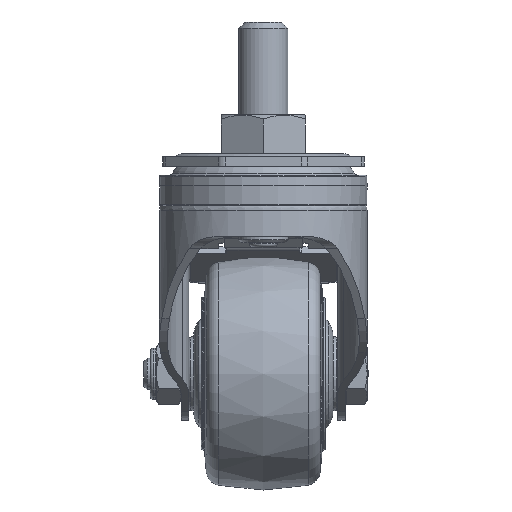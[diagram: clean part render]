
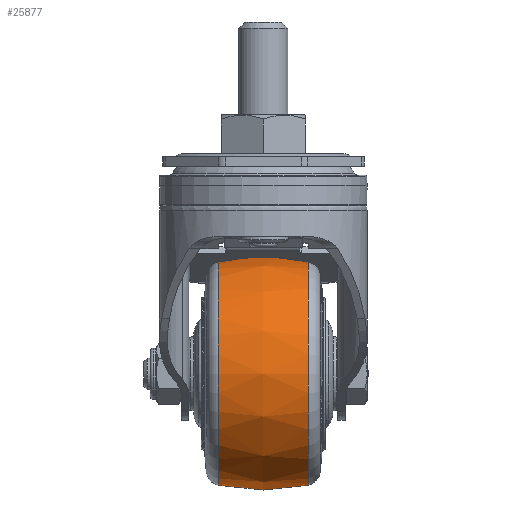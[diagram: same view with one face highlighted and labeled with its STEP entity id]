
A CAD part, left-side view. The second image highlights one B-rep face of the part: STEP entity #25877.
In plain terms, the highlighted free-form (B-spline) face has degree [2, 2] with [3, 9] control points.
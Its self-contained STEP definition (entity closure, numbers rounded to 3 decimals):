
#64=(
BOUNDED_SURFACE()
B_SPLINE_SURFACE(2,2,((#40515,#40516,#40517,#40518,#40519,#40520,#40521,
#40522,#40523),(#40524,#40525,#40526,#40527,#40528,#40529,#40530,#40531,
#40532),(#40533,#40534,#40535,#40536,#40537,#40538,#40539,#40540,#40541)),
 .UNSPECIFIED.,.F.,.T.,.F.)
B_SPLINE_SURFACE_WITH_KNOTS((3,3),(3,2,2,2,3),(-0.208,0.208),
(-3.142,-1.571,0.,1.571,3.142),
 .UNSPECIFIED.)
GEOMETRIC_REPRESENTATION_ITEM()
RATIONAL_B_SPLINE_SURFACE(((1.,0.707,1.,0.707,1.,
0.707,1.,0.707,1.),(0.978,0.692,
0.978,0.692,0.978,0.692,
0.978,0.692,0.978),(1.,0.707,
1.,0.707,1.,0.707,1.,0.707,1.)))
REPRESENTATION_ITEM('')
SURFACE()
);
#3492=FACE_OUTER_BOUND('',#5042,.T.);
#5042=EDGE_LOOP('',(#19548,#19549,#19550,#19551));
#10194=CIRCLE('',#27258,35.992);
#10213=CIRCLE('',#27286,35.992);
#10215=CIRCLE('',#27288,70.);
#11414=VERTEX_POINT('',#40465);
#11429=VERTEX_POINT('',#40512);
#14399=EDGE_CURVE('',#11414,#11414,#10194,.T.);
#14421=EDGE_CURVE('',#11429,#11429,#10213,.T.);
#14423=EDGE_CURVE('',#11414,#11429,#10215,.T.);
#19548=ORIENTED_EDGE('',*,*,#14399,.F.);
#19549=ORIENTED_EDGE('',*,*,#14423,.T.);
#19550=ORIENTED_EDGE('',*,*,#14421,.T.);
#19551=ORIENTED_EDGE('',*,*,#14423,.F.);
#25877=ADVANCED_FACE('',(#3492),#64,.F.);
#27258=AXIS2_PLACEMENT_3D('',#40467,#29475,#29476);
#27286=AXIS2_PLACEMENT_3D('',#40513,#29534,#29535);
#27288=AXIS2_PLACEMENT_3D('',#40542,#29538,#29539);
#29475=DIRECTION('center_axis',(0.,-1.,0.));
#29476=DIRECTION('ref_axis',(0.,0.,-1.));
#29534=DIRECTION('center_axis',(0.,-1.,0.));
#29535=DIRECTION('ref_axis',(0.,0.,-1.));
#29538=DIRECTION('center_axis',(-1.,0.,0.));
#29539=DIRECTION('ref_axis',(0.,0.,
1.));
#40465=CARTESIAN_POINT('',(40.,-14.451,-35.308));
#40467=CARTESIAN_POINT('Origin',(40.,-14.451,-71.3));
#40512=CARTESIAN_POINT('',(40.,14.451,-35.308));
#40513=CARTESIAN_POINT('Origin',(40.,14.451,-71.3));
#40515=CARTESIAN_POINT('Ctrl Pts',(40.,14.451,-35.308));
#40516=CARTESIAN_POINT('Ctrl Pts',(4.008,14.451,-35.308));
#40517=CARTESIAN_POINT('Ctrl Pts',(4.008,14.451,-71.3));
#40518=CARTESIAN_POINT('Ctrl Pts',(4.008,14.451,-107.292));
#40519=CARTESIAN_POINT('Ctrl Pts',(40.,14.451,-107.292));
#40520=CARTESIAN_POINT('Ctrl Pts',(75.992,14.451,-107.292));
#40521=CARTESIAN_POINT('Ctrl Pts',(75.992,14.451,-71.3));
#40522=CARTESIAN_POINT('Ctrl Pts',(75.992,14.451,-35.308));
#40523=CARTESIAN_POINT('Ctrl Pts',(40.,14.451,-35.308));
#40524=CARTESIAN_POINT('Ctrl Pts',(40.,0.,
-32.259));
#40525=CARTESIAN_POINT('Ctrl Pts',(0.959,0.,
-32.259));
#40526=CARTESIAN_POINT('Ctrl Pts',(0.959,0.,
-71.3));
#40527=CARTESIAN_POINT('Ctrl Pts',(0.959,0.,
-110.341));
#40528=CARTESIAN_POINT('Ctrl Pts',(40.,0.,
-110.341));
#40529=CARTESIAN_POINT('Ctrl Pts',(79.041,0.,
-110.341));
#40530=CARTESIAN_POINT('Ctrl Pts',(79.041,0.,
-71.3));
#40531=CARTESIAN_POINT('Ctrl Pts',(79.041,0.,
-32.259));
#40532=CARTESIAN_POINT('Ctrl Pts',(40.,0.,
-32.259));
#40533=CARTESIAN_POINT('Ctrl Pts',(40.,-14.451,-35.308));
#40534=CARTESIAN_POINT('Ctrl Pts',(4.008,-14.451,-35.308));
#40535=CARTESIAN_POINT('Ctrl Pts',(4.008,-14.451,-71.3));
#40536=CARTESIAN_POINT('Ctrl Pts',(4.008,-14.451,-107.292));
#40537=CARTESIAN_POINT('Ctrl Pts',(40.,-14.451,-107.292));
#40538=CARTESIAN_POINT('Ctrl Pts',(75.992,-14.451,-107.292));
#40539=CARTESIAN_POINT('Ctrl Pts',(75.992,-14.451,-71.3));
#40540=CARTESIAN_POINT('Ctrl Pts',(75.992,-14.451,-35.308));
#40541=CARTESIAN_POINT('Ctrl Pts',(40.,-14.451,-35.308));
#40542=CARTESIAN_POINT('Origin',(40.,0.,
-103.8));
